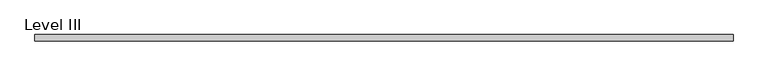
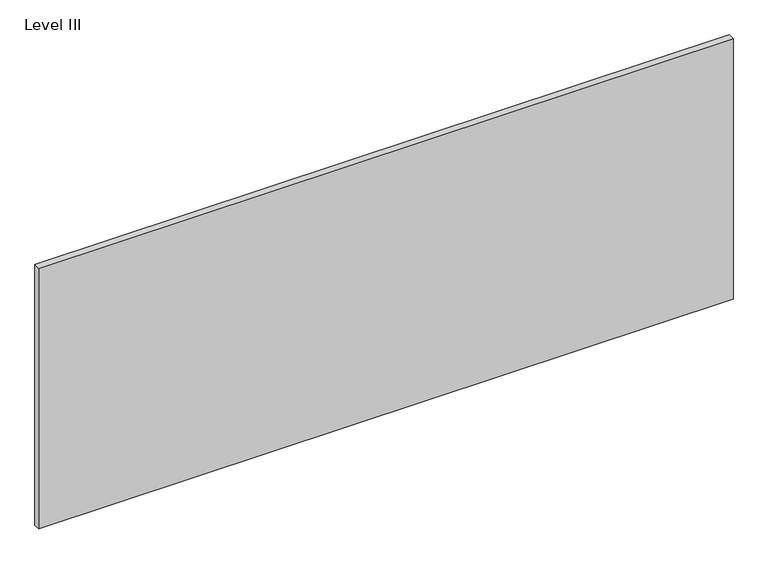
"""IFC4 building model written with IfcOpenShell, lengths in millimetres: proxy geometry, Panel-Fascia-Teknion-Altos-Landscape : Level III."""

from ifc_helpers import new_model, si_unit, frame, origin, place, context, project, spatial, polyline, outline, extrude, source, transform, mapped, element, save


def level_iii_4951afc5(model_context):
    return source(origin(), model_context, "Body", "SweptSolid", [
        extrude(outline(polyline([(1012.8305563, 9.525), (1012.8305563, -9.525), (-1012.8305562, -9.525), (-1012.8305562, 9.525), (1012.8305563, 9.525)])), frame((0.0, 0.0, 3.175), z_axis=(0.0, 0.0, 1.0), x_axis=(1.0, 0.0, 0.0)), (0.0, 0.0, 1.0), 804.418),
    ])


if __name__ == "__main__":
    model = new_model("IFC4")
    model_context = context("Model", 3, world=origin())
    ifc_project = project(units=[si_unit("LENGTHUNIT", "METRE", prefix="MILLI")], contexts=[model_context])
    site = spatial("IfcSite", under=ifc_project)
    building = spatial("IfcBuilding", under=site)
    placement = place(None, origin())
    level_iii_shape = level_iii_4951afc5(model_context)
    element("IfcBuildingElementProxy", 1, Name="Panel-Fascia-Teknion-Altos-Landscape : Level III", ObjectType="Panel-Fascia-Teknion-Altos-Landscape : Level III", at=placement, inside=building, context=model_context, shape_type="MappedRepresentation", body=[
        mapped(level_iii_shape, transform((0.0, 0.0, 0.0), x_axis=(1.0, 0.0, 0.0), y_axis=(0.0, 1.0, 0.0), z_axis=(0.0, 0.0, 1.0))),
    ])
    save(model, "model.ifc")
